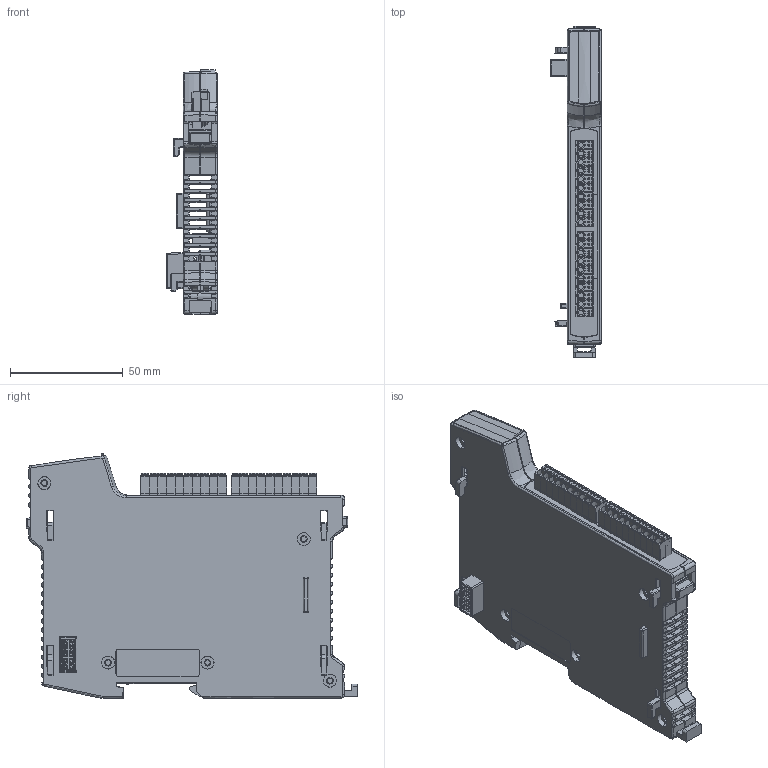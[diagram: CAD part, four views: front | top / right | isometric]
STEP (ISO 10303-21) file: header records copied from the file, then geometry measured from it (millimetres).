
FILE_DESCRIPTION(/* description */ (''),/* implementation_level */ '2;1');
FILE_NAME(/* name */ 'FLEXSL~1',/* time_stamp */ '2018-12-10T14:26:32+00:00',/* author */ (''),/* organization */ (''),/* preprocessor_version */ 'ST-DEVELOPER v16.5',/* originating_system */ '',/* authorisation */ '');
FILE_SCHEMA (('AUTOMOTIVE_DESIGN'));
Products named in the file (1): Document
Bounding box: 22.47 x 146.72 x 108.56 mm (x, y, z)
Volume: 18331.6 mm3; surface area: 100937.1 mm2
Topology: 132 solids, 142 shells, 7695 faces, 20847 edges, 13249 vertices
Faces by surface type: plane 5203, bspline 2492
Entity records: 281520 total; most frequent: CARTESIAN_POINT 149858, ORIENTED_EDGE 40918, EDGE_CURVE 20791, B_SPLINE_CURVE_WITH_KNOTS 16286, VERTEX_POINT 13249, EDGE_LOOP 8115, ADVANCED_FACE 7695, FACE_OUTER_BOUND 7695
